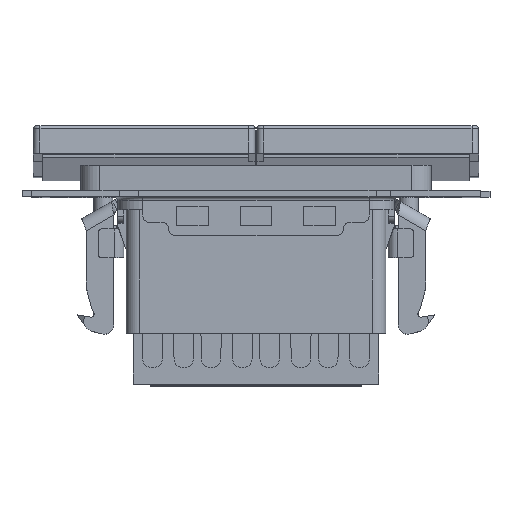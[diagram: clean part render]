
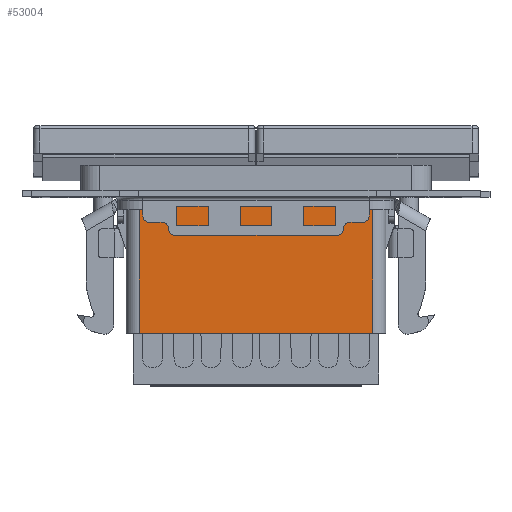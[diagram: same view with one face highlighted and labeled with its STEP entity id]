
A CAD part, top view. The second image highlights one B-rep face of the part: STEP entity #53004.
In plain terms, the highlighted planar face has unit normal (0, 0, 1).
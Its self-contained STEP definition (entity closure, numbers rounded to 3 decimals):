
#3726 = LINE ( 'NONE', #51597, #35785 ) ;
#5983 = ORIENTED_EDGE ( 'NONE', *, *, #44622, .T. ) ;
#9960 = DIRECTION ( 'NONE',  ( 0., 1., 0. ) ) ;
#10058 = CARTESIAN_POINT ( 'NONE',  ( 35.385, 44.955, 58.508 ) ) ;
#10381 = VECTOR ( 'NONE', #14700, 1000. ) ;
#13803 = CARTESIAN_POINT ( 'NONE',  ( 72.583, 22.555, 58.508 ) ) ;
#14105 = CARTESIAN_POINT ( 'NONE',  ( 35.385, 44.755, 58.508 ) ) ;
#14547 = ORIENTED_EDGE ( 'NONE', *, *, #58145, .T. ) ;
#14700 = DIRECTION ( 'NONE',  ( -1., 0., 0. ) ) ;
#16004 = EDGE_CURVE ( 'NONE', #48625, #49339, #3726, .T. ) ;
#19675 = VERTEX_POINT ( 'NONE', #10058 ) ;
#20048 = DIRECTION ( 'NONE',  ( -1., 0., 0. ) ) ;
#20702 = CARTESIAN_POINT ( 'NONE',  ( 71.985, 22.555, 58.508 ) ) ;
#20930 = VERTEX_POINT ( 'NONE', #26828 ) ;
#21226 = CARTESIAN_POINT ( 'NONE',  ( 71.985, 44.955, 58.508 ) ) ;
#24612 = PLANE ( 'NONE',  #47483 ) ;
#26593 = ORIENTED_EDGE ( 'NONE', *, *, #16004, .T. ) ;
#26828 = CARTESIAN_POINT ( 'NONE',  ( 35.385, 22.555, 58.508 ) ) ;
#29372 = VECTOR ( 'NONE', #56387, 1000. ) ;
#31215 = DIRECTION ( 'NONE',  ( 0., 0., -1. ) ) ;
#35785 = VECTOR ( 'NONE', #9960, 1000. ) ;
#37587 = ORIENTED_EDGE ( 'NONE', *, *, #38306, .T. ) ;
#38306 = EDGE_CURVE ( 'NONE', #20930, #48625, #45237, .T. ) ;
#40567 = CARTESIAN_POINT ( 'NONE',  ( 72.583, 44.955, 58.508 ) ) ;
#41237 = LINE ( 'NONE', #40567, #10381 ) ;
#44622 = EDGE_CURVE ( 'NONE', #19675, #20930, #51157, .T. ) ;
#44900 = DIRECTION ( 'NONE',  ( 1., 0., 0. ) ) ;
#45237 = LINE ( 'NONE', #13803, #45753 ) ;
#45753 = VECTOR ( 'NONE', #44900, 1000. ) ;
#47483 = AXIS2_PLACEMENT_3D ( 'NONE', #62005, #31215, #20048 ) ;
#48625 = VERTEX_POINT ( 'NONE', #20702 ) ;
#49339 = VERTEX_POINT ( 'NONE', #21226 ) ;
#51157 = LINE ( 'NONE', #14105, #29372 ) ;
#51597 = CARTESIAN_POINT ( 'NONE',  ( 71.985, 44.755, 58.508 ) ) ;
#52200 = FACE_OUTER_BOUND ( 'NONE', #68225, .T. ) ;
#53004 = ADVANCED_FACE ( 'NONE', ( #52200 ), #24612, .F. ) ;
#56387 = DIRECTION ( 'NONE',  ( 0., -1., 0. ) ) ;
#58145 = EDGE_CURVE ( 'NONE', #49339, #19675, #41237, .T. ) ;
#62005 = CARTESIAN_POINT ( 'NONE',  ( 72.583, 44.755, 58.508 ) ) ;
#68225 = EDGE_LOOP ( 'NONE', ( #26593, #14547, #5983, #37587 ) ) ;
